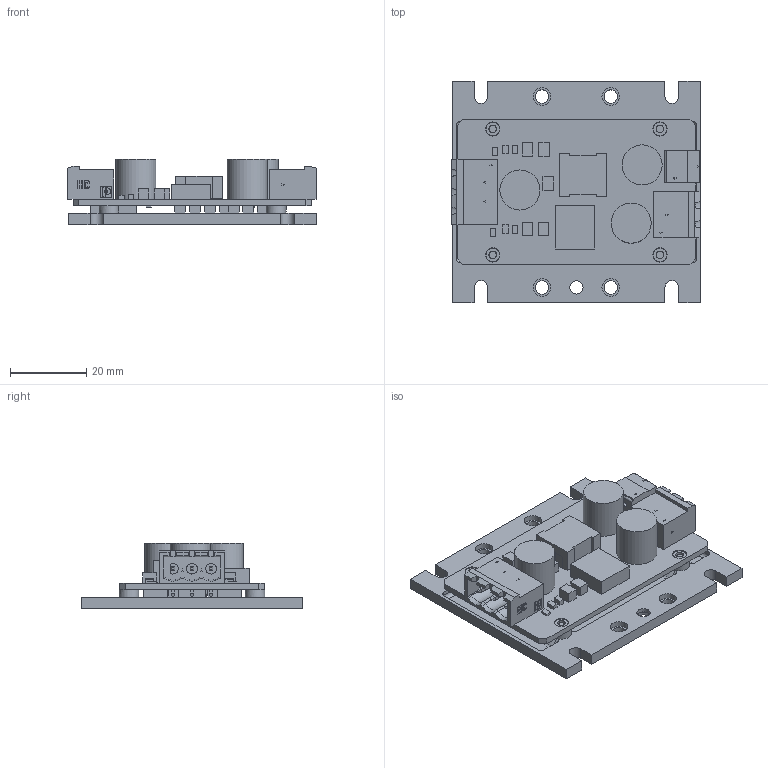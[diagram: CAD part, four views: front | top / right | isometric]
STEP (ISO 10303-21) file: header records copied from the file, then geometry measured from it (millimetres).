
FILE_DESCRIPTION(/* description */ (''),/* implementation_level */ '2;1');
FILE_NAME(/* name */ 'EFS 5004 S.stp',/* time_stamp */ '2020-08-07T09:27:06+02:00',/* author */ ('DR. FRITZ FAULHABER GmbH & Co. KG'),/* organization */ ('DR. FRITZ FAULHABER GmbH & Co. KG'),/* preprocessor_version */ 'ST-DEVELOPER v16.7',/* originating_system */ 'SIEMENS PLM Software NX 12.0',/* authorisation */ '');
FILE_SCHEMA (('AUTOMOTIVE_DESIGN { 1 0 10303 214 3 1 1 1 }'));
Length unit declared in the file: millimetre
Products named in the file (1): 012005_A_2-TP-00197
Bounding box: 65.2 x 58 x 17.09 mm (x, y, z)
Volume: 17034.1 mm3; surface area: 18955.6 mm2
Topology: 1 solids, 5 shells, 1002 faces, 2571 edges, 1670 vertices
Faces by surface type: plane 770, cylinder 176, cone 24, sphere 12, torus 12, bspline 8
Full cylindrical faces by diameter (mm): 0.434 x2, 0.457 x1, 1.2 x2, 1.25 x2, 1.6 x1, 2.05 x4, 2.5 x4, 2.8 x3, 2.9 x4, 3.5 x9, 3.7 x4, 4.6 x4, 4.7 x4, 5.1 x4, 5.5 x4, 6.5 x1, 10.5 x3
Entity records: 30380 total; most frequent: CARTESIAN_POINT 7172, ORIENTED_EDGE 4922, DIRECTION 4292, EDGE_CURVE 2461, VERTEX_POINT 1649, LINE 1642, VECTOR 1642, AXIS2_PLACEMENT_3D 1325
